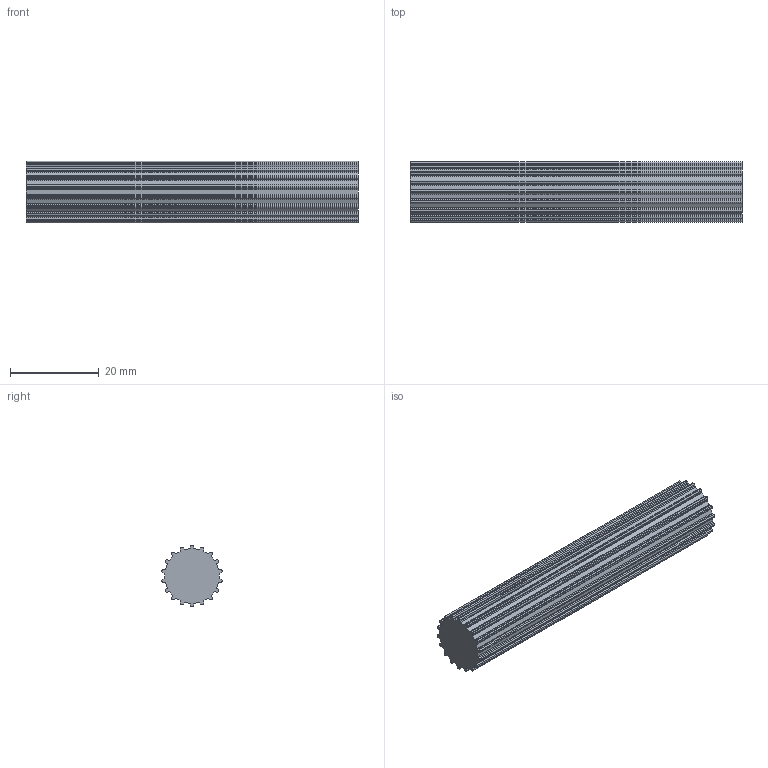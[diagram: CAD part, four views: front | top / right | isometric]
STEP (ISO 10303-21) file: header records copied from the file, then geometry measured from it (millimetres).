
FILE_DESCRIPTION( ( 'STEP AP214' ), '1' );
FILE_NAME( 'C:/Users/StangenbergN/Documents/CAD_Step/1/16091800.stp', '2019-07-25T19:40:59', ( '' ), ( '' ), ' ', 'PARTsolutions', ' ' );
FILE_SCHEMA( ( 'AUTOMOTIVE_DESIGN { 1 0 10303 214 1 1 1 1 }' ) );
Length unit declared in the file: millimetre
Products named in the file (1): _16091800
Bounding box: 75 x 13.64 x 13.82 mm (x, y, z)
Volume: 9736.5 mm3; surface area: 4513.8 mm2
Topology: 1 solids, 1 shells, 146 faces, 432 edges, 288 vertices
Faces by surface type: cylinder 90, plane 56
Entity records: 6140 total; most frequent: DIRECTION 906, CARTESIAN_POINT 867, ORIENTED_EDGE 864, EDGE_CURVE 432, AXIS2_PLACEMENT_3D 327, VERTEX_POINT 288, LINE 252, VECTOR 252
